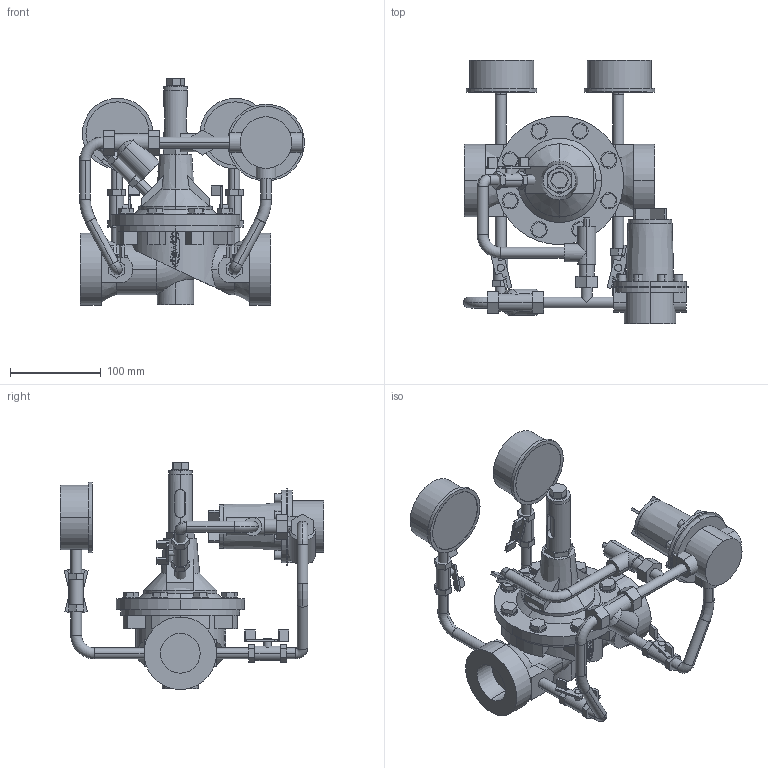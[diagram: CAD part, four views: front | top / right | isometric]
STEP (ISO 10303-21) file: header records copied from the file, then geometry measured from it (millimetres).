
FILE_DESCRIPTION(('STEP AP214'),'1');
FILE_NAME('S:/EK/USER/CAT6/3DHomepage_27-04-2012/neu_10-04-2013/1500/1500_PN16_DN1,5Zoll_IG.STP','2013-04-10T14:07:08',(' '),(' '),'Spatial InterOp 3D',' ',' ');
FILE_SCHEMA(('automotive_design'));
Length unit declared in the file: millimetre
Products named in the file (173): 3D-Objekt
Bounding box: 248.45 x 290.92 x 250.8 mm (x, y, z)
Volume: 2342800.2 mm3; surface area: 507138.6 mm2
Topology: 173 solids, 173 shells, 1189 faces, 2537 edges, 1694 vertices
Faces by surface type: plane 840, cylinder 314, torus 20, cone 15
Entity records: 57337 total; most frequent: CARTESIAN_POINT 17385, DIRECTION 5953, ORIENTED_EDGE 5074, EDGE_CURVE 2537, AXIS2_PLACEMENT_3D 2085, LINE 1783, VECTOR 1783, VERTEX_POINT 1694
